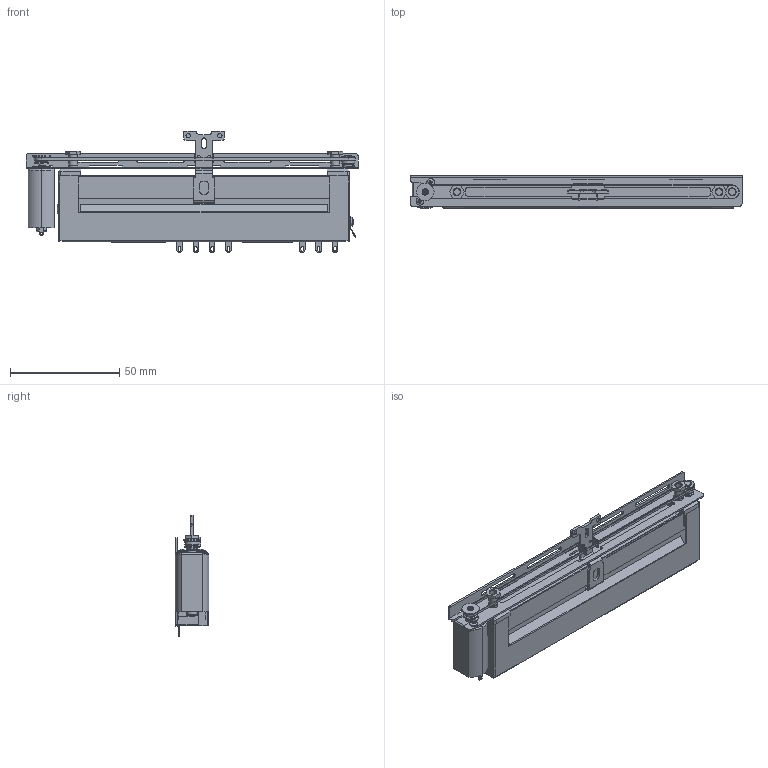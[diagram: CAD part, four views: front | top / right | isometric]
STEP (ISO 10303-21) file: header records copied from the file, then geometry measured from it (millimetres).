
FILE_DESCRIPTION(('FreeCAD Model'),'2;1');
FILE_NAME('Open CASCADE Shape Model','2023-06-16T15:26:47',(''),(''), 'Open CASCADE STEP processor 7.6','FreeCAD','Unknown');
FILE_SCHEMA(('AUTOMOTIVE_DESIGN { 1 0 10303 214 1 1 1 1 }'));
Products named in the file (1): MF-9101-Xxx-M8V
Bounding box: 152 x 15.47 x 55.5 mm (x, y, z)
Volume: 56357.4 mm3; surface area: 34407.6 mm2
Topology: 1 solids, 11 shells, 981 faces, 2519 edges, 1584 vertices
Faces by surface type: plane 649, cylinder 236, cone 57, bspline 19, torus 10, sphere 5, revolution 5
Full cylindrical faces by diameter (mm): 1.1 x2, 1.2 x6, 1.25 x2, 1.3 x1, 1.5 x4, 1.6 x2, 2 x14, 2.2 x8, 2.6 x3, 3 x9, 3.2 x2, 3.5 x3, 3.6 x2, 3.7 x1, 4 x12, 4.5 x2, 4.7 x2, 5 x2, 5.38 x1, 5.6 x1, 6 x2, 6.5 x1, 8 x1
Entity records: 67146 total; most frequent: CARTESIAN_POINT 14480, DIRECTION 8706, ORIENTED_EDGE 5030, PCURVE 5024, DEFINITIONAL_REPRESENTATION 5024, LINE 4861, VECTOR 4861, EDGE_CURVE 2512
